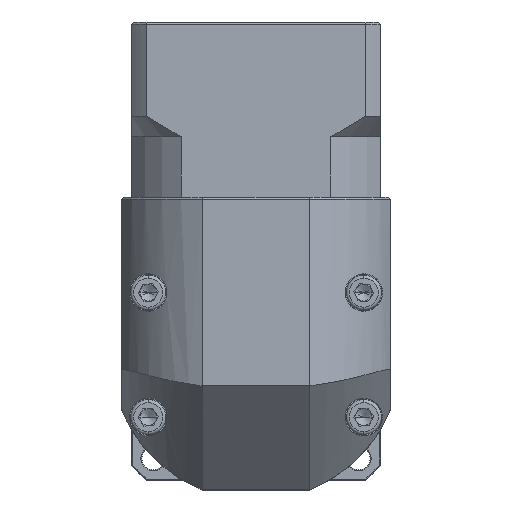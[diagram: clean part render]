
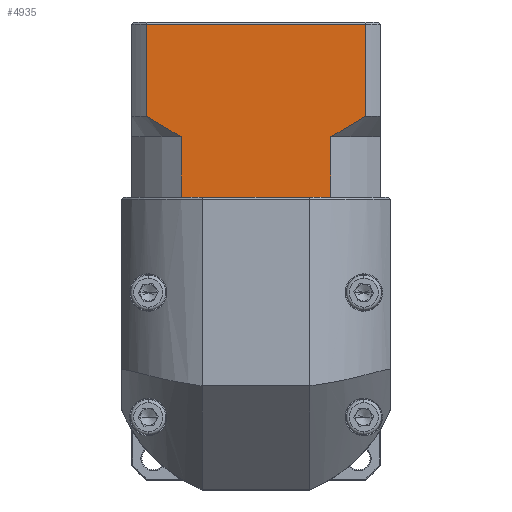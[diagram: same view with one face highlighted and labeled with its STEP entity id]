
A CAD part, top view. The second image highlights one B-rep face of the part: STEP entity #4935.
In plain terms, the highlighted planar face has unit normal (0, 0, 1).
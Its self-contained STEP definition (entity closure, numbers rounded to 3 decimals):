
#15 = ORIENTED_EDGE ( 'NONE', *, *, #98402, .F. ) ;
#1094 = VECTOR ( 'NONE', #73499, 1000. ) ;
#2184 = EDGE_LOOP ( 'NONE', ( #46930, #44547, #11471, #9062, #15, #12943, #53726, #7998, #14201, #20531 ) ) ;
#3243 = LINE ( 'NONE', #17156, #99142 ) ;
#4268 = VERTEX_POINT ( 'NONE', #81662 ) ;
#4935 = ADVANCED_FACE ( 'NONE', ( #46892 ), #50753, .F. ) ;
#5259 = VECTOR ( 'NONE', #14287, 1000. ) ;
#7709 = EDGE_CURVE ( 'NONE', #88447, #4268, #82005, .T. ) ;
#7998 = ORIENTED_EDGE ( 'NONE', *, *, #33263, .T. ) ;
#8985 = CARTESIAN_POINT ( 'NONE',  ( -61.48, 50.107, 38.39 ) ) ;
#9062 = ORIENTED_EDGE ( 'NONE', *, *, #64530, .T. ) ;
#10156 = CARTESIAN_POINT ( 'NONE',  ( -73.453, 77.807, 38.39 ) ) ;
#11211 = CARTESIAN_POINT ( 'NONE',  ( -25.425, 35.607, 38.39 ) ) ;
#11471 = ORIENTED_EDGE ( 'NONE', *, *, #96992, .F. ) ;
#11481 = CARTESIAN_POINT ( 'NONE',  ( -73.453, 35.607, 38.39 ) ) ;
#12943 = ORIENTED_EDGE ( 'NONE', *, *, #95595, .T. ) ;
#14201 = ORIENTED_EDGE ( 'NONE', *, *, #82439, .F. ) ;
#14287 = DIRECTION ( 'NONE',  ( -1., 0., 0. ) ) ;
#15053 = CARTESIAN_POINT ( 'NONE',  ( -67.172, 53.334, 38.39 ) ) ;
#16129 = CARTESIAN_POINT ( 'NONE',  ( -69.91, 55.107, 38.39 ) ) ;
#17156 = CARTESIAN_POINT ( 'NONE',  ( -16.995, 50.107, 38.39 ) ) ;
#17779 = CARTESIAN_POINT ( 'NONE',  ( -25.425, 50.107, 38.39 ) ) ;
#20531 = ORIENTED_EDGE ( 'NONE', *, *, #57595, .T. ) ;
#21068 = CARTESIAN_POINT ( 'NONE',  ( -61.48, 35.607, 38.39 ) ) ;
#21120 = VERTEX_POINT ( 'NONE', #16129 ) ;
#22304 = VERTEX_POINT ( 'NONE', #21068 ) ;
#25104 = DIRECTION ( 'NONE',  ( 0., 1., 0. ) ) ;
#25307 = DIRECTION ( 'NONE',  ( 0., -1., 0. ) ) ;
#25966 = DIRECTION ( 'NONE',  ( 0., -1., 0. ) ) ;
#28794 = VECTOR ( 'NONE', #48255, 1000. ) ;
#31455 = CARTESIAN_POINT ( 'NONE',  ( -69.91, 55.107, 38.39 ) ) ;
#31665 = LINE ( 'NONE', #48361, #1094 ) ;
#33263 = EDGE_CURVE ( 'NONE', #103164, #50117, #86384, .T. ) ;
#35917 = VECTOR ( 'NONE', #93675, 1000. ) ;
#36610 = LINE ( 'NONE', #91003, #69880 ) ;
#37719 = VECTOR ( 'NONE', #68590, 1000. ) ;
#39027 = LINE ( 'NONE', #17779, #80025 ) ;
#39726 = LINE ( 'NONE', #53485, #35917 ) ;
#40398 = CARTESIAN_POINT ( 'NONE',  ( -62.933, 50.854, 38.39 ) ) ;
#44547 = ORIENTED_EDGE ( 'NONE', *, *, #7709, .T. ) ;
#46263 = CARTESIAN_POINT ( 'NONE',  ( -23.968, 50.857, 38.39 ) ) ;
#46601 = CARTESIAN_POINT ( 'NONE',  ( -18.358, 54.205, 38.39 ) ) ;
#46892 = FACE_OUTER_BOUND ( 'NONE', #2184, .T. ) ;
#46930 = ORIENTED_EDGE ( 'NONE', *, *, #103723, .F. ) ;
#48255 = DIRECTION ( 'NONE',  ( 1., 0., 0. ) ) ;
#48361 = CARTESIAN_POINT ( 'NONE',  ( -73.453, 35.607, 38.39 ) ) ;
#50117 = VERTEX_POINT ( 'NONE', #11211 ) ;
#50753 = PLANE ( 'NONE',  #70635 ) ;
#51811 = LINE ( 'NONE', #11481, #37719 ) ;
#52975 = CARTESIAN_POINT ( 'NONE',  ( -60.489, 35.607, 38.39 ) ) ;
#53485 = CARTESIAN_POINT ( 'NONE',  ( -69.91, 50.107, 38.39 ) ) ;
#53726 = ORIENTED_EDGE ( 'NONE', *, *, #81684, .T. ) ;
#54457 = VERTEX_POINT ( 'NONE', #72505 ) ;
#55018 = VERTEX_POINT ( 'NONE', #73782 ) ;
#55111 = CARTESIAN_POINT ( 'NONE',  ( -73.453, 35.607, 38.39 ) ) ;
#57595 = EDGE_CURVE ( 'NONE', #54457, #55018, #69218, .T. ) ;
#57721 = CARTESIAN_POINT ( 'NONE',  ( -26.416, 35.607, 38.39 ) ) ;
#58818 = CARTESIAN_POINT ( 'NONE',  ( -16.995, 77.307, 38.39 ) ) ;
#62007 = CARTESIAN_POINT ( 'NONE',  ( -25.425, 50.107, 38.39 ) ) ;
#62833 = VERTEX_POINT ( 'NONE', #52975 ) ;
#64041 = B_SPLINE_CURVE_WITH_KNOTS ( 'NONE', 3,
 ( #31455, #80833, #15053, #80474, #40398, #64673 ),
 .UNSPECIFIED., .F., .F.,
 ( 4, 2, 4 ),
 ( 0.052, 0.057, 0.062 ),
 .UNSPECIFIED. ) ;
#64530 = EDGE_CURVE ( 'NONE', #21120, #76572, #64041, .T. ) ;
#64673 = CARTESIAN_POINT ( 'NONE',  ( -61.48, 50.107, 38.39 ) ) ;
#68590 = DIRECTION ( 'NONE',  ( 1., 0., 0. ) ) ;
#69218 = B_SPLINE_CURVE_WITH_KNOTS ( 'NONE', 3,
 ( #62007, #46263, #86795, #87505, #46601, #103587 ),
 .UNSPECIFIED., .F., .F.,
 ( 4, 2, 4 ),
 ( 0.1, 0.104, 0.109 ),
 .UNSPECIFIED. ) ;
#69880 = VECTOR ( 'NONE', #81339, 1000. ) ;
#70635 = AXIS2_PLACEMENT_3D ( 'NONE', #10156, #83786, #25104 ) ;
#72505 = CARTESIAN_POINT ( 'NONE',  ( -25.425, 50.107, 38.39 ) ) ;
#73499 = DIRECTION ( 'NONE',  ( 1., 0., 0. ) ) ;
#73782 = CARTESIAN_POINT ( 'NONE',  ( -16.995, 55.107, 38.39 ) ) ;
#76572 = VERTEX_POINT ( 'NONE', #8985 ) ;
#80025 = VECTOR ( 'NONE', #25966, 1000. ) ;
#80374 = CARTESIAN_POINT ( 'NONE',  ( -73.453, 77.307, 38.39 ) ) ;
#80474 = CARTESIAN_POINT ( 'NONE',  ( -64.364, 51.658, 38.39 ) ) ;
#80833 = CARTESIAN_POINT ( 'NONE',  ( -68.55, 54.207, 38.39 ) ) ;
#81339 = DIRECTION ( 'NONE',  ( 0., 1., 0. ) ) ;
#81662 = CARTESIAN_POINT ( 'NONE',  ( -69.91, 77.307, 38.39 ) ) ;
#81684 = EDGE_CURVE ( 'NONE', #62833, #103164, #31665, .T. ) ;
#82005 = LINE ( 'NONE', #80374, #5259 ) ;
#82439 = EDGE_CURVE ( 'NONE', #54457, #50117, #39027, .T. ) ;
#83786 = DIRECTION ( 'NONE',  ( 0., 0., -1. ) ) ;
#86384 = LINE ( 'NONE', #55111, #28794 ) ;
#86795 = CARTESIAN_POINT ( 'NONE',  ( -22.543, 51.657, 38.39 ) ) ;
#87505 = CARTESIAN_POINT ( 'NONE',  ( -19.738, 53.331, 38.39 ) ) ;
#88447 = VERTEX_POINT ( 'NONE', #58818 ) ;
#91003 = CARTESIAN_POINT ( 'NONE',  ( -61.48, 50.107, 38.39 ) ) ;
#93675 = DIRECTION ( 'NONE',  ( 0., 1., 0. ) ) ;
#95595 = EDGE_CURVE ( 'NONE', #22304, #62833, #51811, .T. ) ;
#96992 = EDGE_CURVE ( 'NONE', #21120, #4268, #39726, .T. ) ;
#98402 = EDGE_CURVE ( 'NONE', #22304, #76572, #36610, .T. ) ;
#99142 = VECTOR ( 'NONE', #25307, 1000. ) ;
#103164 = VERTEX_POINT ( 'NONE', #57721 ) ;
#103587 = CARTESIAN_POINT ( 'NONE',  ( -16.995, 55.107, 38.39 ) ) ;
#103723 = EDGE_CURVE ( 'NONE', #88447, #55018, #3243, .T. ) ;
